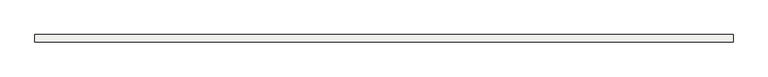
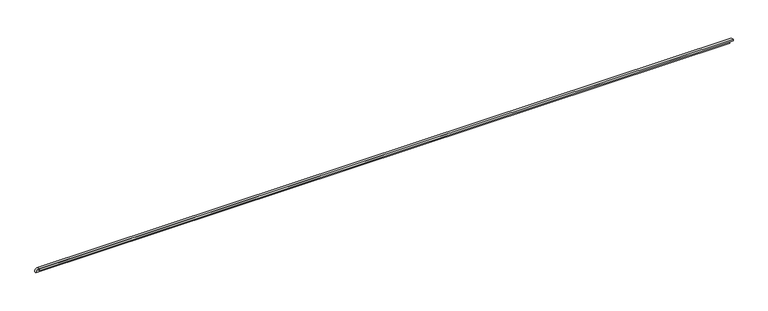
"""IFC4 building model written with IfcOpenShell, lengths in millimetres: slab geometry, ROSA GRES_183 : Pieza 183_Serena_Ocra_Anti-Slip."""

from ifc_helpers import new_model, si_unit, point, frame, frame_2d, origin, origin_2d, place, context, project, spatial, polyline, circle_curve, trimmed, segment, composite_curve, outline, extrude, source, transform, mapped, element, save


def slab_794facc7(model_context):
    return source(origin(), model_context, "Body", "SweptSolid", [
        extrude(outline(composite_curve([segment(trimmed(circle_curve(origin_2d(), 40.0), [point((0.0, 40.0))], [point((40.0, 0.0))], False, "CARTESIAN"), True, "CONTINUOUS"), segment(polyline([(40.0, 0.0), (30.0265886, 0.0)]), True, "CONTINUOUS"), segment(trimmed(circle_curve(frame_2d((0.0044453, 0.0044453)), 30.0221435), [point((30.0265886, 0.0))], [point((0.0, 30.0265886))], True, "CARTESIAN"), True, "CONTINUOUS"), segment(polyline([(0.0, 30.0265886), (0.0, 40.0)]), True, "CONTINUOUS")], self_intersect=False)), frame((0.0, 0.0, 0.0), z_axis=(1.0, 0.0, 0.0), x_axis=(0.0, 1.0, 0.0)), (0.0, 0.0, 1.0), 3706.6348824),
    ])


if __name__ == "__main__":
    model = new_model("IFC4")
    model_context = context("Model", 3, world=origin())
    ifc_project = project(units=[si_unit("LENGTHUNIT", "METRE", prefix="MILLI")], contexts=[model_context])
    site = spatial("IfcSite", under=ifc_project)
    building = spatial("IfcBuilding", under=site)
    placement = place(None, origin())
    slab_shape = slab_794facc7(model_context)
    element("IfcSlab", 1, ObjectType="ROSA GRES_183 : Pieza 183_Serena_Ocra_Anti-Slip", at=placement, inside=building, context=model_context, shape_type="MappedRepresentation", body=[
        mapped(slab_shape, transform((0.0, 0.0, 0.0), x_axis=(1.0, 0.0, 0.0), y_axis=(0.0, 1.0, 0.0), z_axis=(0.0, 0.0, 1.0))),
    ])
    save(model, "model.ifc")
